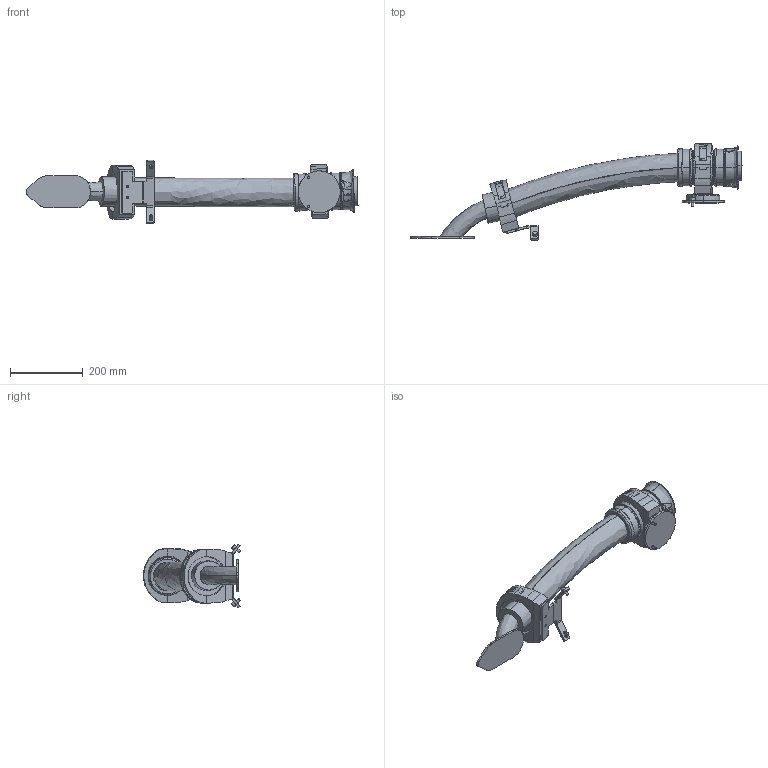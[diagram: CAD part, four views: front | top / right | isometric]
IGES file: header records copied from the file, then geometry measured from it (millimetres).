
Start section: SolidWorks IGES file using analytic representation for surfaces
Global section: file name: C:\DATA\SAP_DOC\LW\IRB 6720\IRB6720-LID-MH_200kg-280_OC_01_SW_J\export\IRB6720-LID-MH_200kg-280_OC_01_IGES_J\IRB6720-LID_200kg-280_OC_00_LINK04_CABLE.igs; native system: SolidWorks 2024; preprocessor: SolidWorks 2024; author: SEJOVAS3; date: 260526.091350; units: millimetre
Bounding box: 910.12 x 265.93 x 174.65 mm (x, y, z)
Surface area: 405412.9 mm2 (no closed solid volume)
Topology: 0 solids, 0 shells, 425 faces, 7838 edges, 7838 vertices
Faces by surface type: bspline 263, revolution 162
